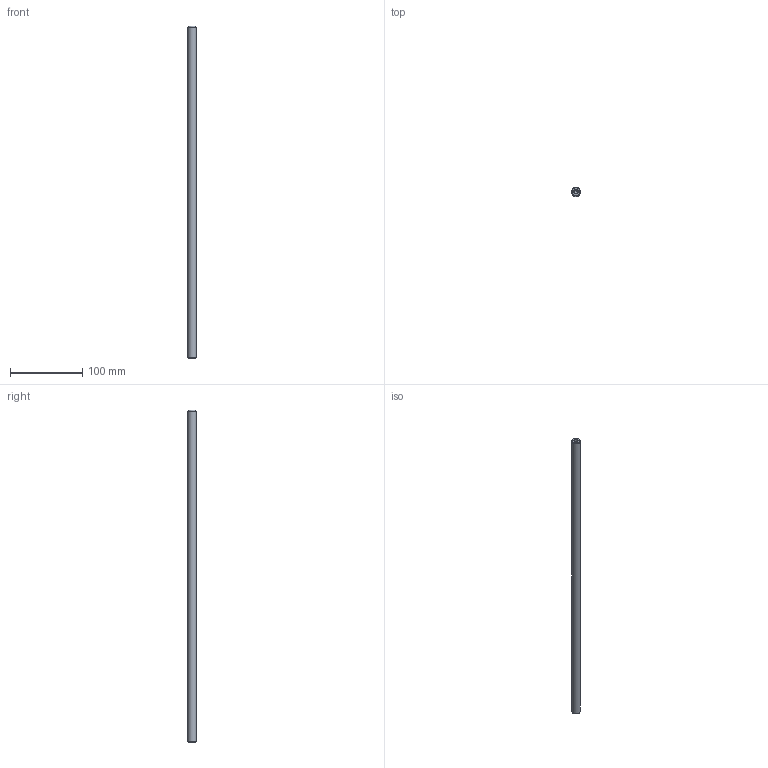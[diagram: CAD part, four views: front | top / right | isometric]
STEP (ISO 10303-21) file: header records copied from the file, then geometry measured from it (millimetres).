
FILE_DESCRIPTION( ( 'STEP AP214' ), '1' );
FILE_NAME( 'U:/Etudes/Top Solid/BIBLIO 3D AVM/STEP/PNEUMATIQUE/GUIDAGES/Accessoires/Colonnes/Ø12x459.step', '2005-05-04T12:46:39', ( ' ' ), ( ' ' ), 'XStep 1.0', ' ', ' ' );
FILE_SCHEMA( ( 'automotive_design' ) );
Length unit declared in the file: metre
Products named in the file (1): 1
Bounding box: 12 x 12 x 459 mm (x, y, z)
Volume: 51399.5 mm3; surface area: 17911 mm2
Topology: 1 solids, 1 shells, 13 faces, 27 edges, 16 vertices
Faces by surface type: cone 6, cylinder 5, plane 2
Full cylindrical faces by diameter (mm): 4.134 x2, 4.918 x2, 12 x1
Entity records: 382 total; most frequent: DIRECTION 52, CARTESIAN_POINT 40, AXIS2_PLACEMENT_3D 26, EDGE_LOOP 24, ORIENTED_EDGE 24, FACE_OUTER_BOUND 18, VERTEX_POINT 14, STYLED_ITEM 13
